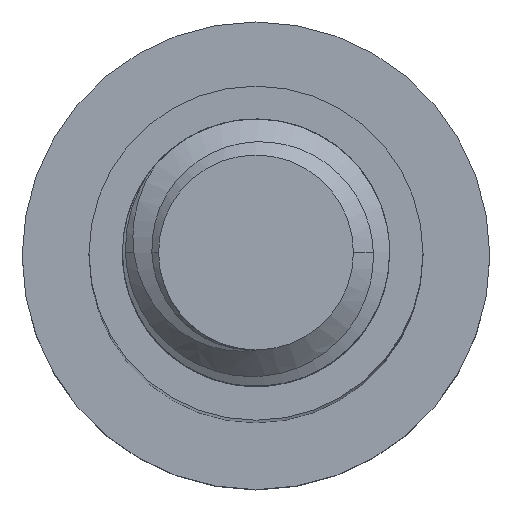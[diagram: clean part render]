
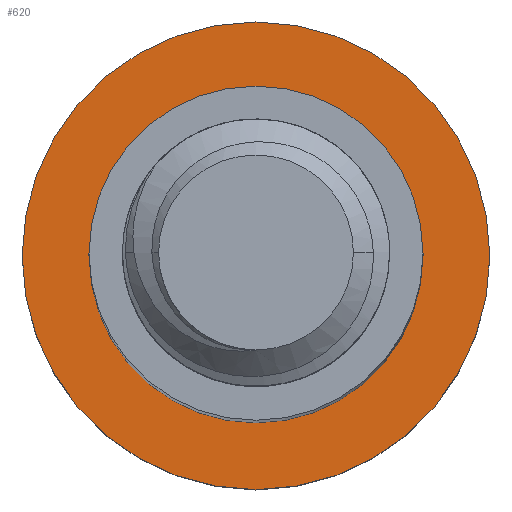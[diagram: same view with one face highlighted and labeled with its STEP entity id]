
A CAD part, top view. The second image highlights one B-rep face of the part: STEP entity #620.
In plain terms, the highlighted planar face has unit normal (0, 0, 1).
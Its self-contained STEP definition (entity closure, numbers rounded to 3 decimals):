
#134 = CARTESIAN_POINT ( 'NONE',  ( 0., 0., -45. ) ) ;
#141 = CARTESIAN_POINT ( 'NONE',  ( 7., 0., -45. ) ) ;
#224 = DIRECTION ( 'NONE',  ( -1., 0., 0. ) ) ;
#273 = EDGE_LOOP ( 'NONE', ( #2908, #792 ) ) ;
#315 = DIRECTION ( 'NONE',  ( 0., 0., -1. ) ) ;
#442 = PLANE ( 'NONE',  #3913 ) ;
#459 = AXIS2_PLACEMENT_3D ( 'NONE', #134, #3814, #2165 ) ;
#620 = ADVANCED_FACE ( 'NONE', ( #2100, #791 ), #442, .F. ) ;
#791 = FACE_OUTER_BOUND ( 'NONE', #273, .T. ) ;
#792 = ORIENTED_EDGE ( 'NONE', *, *, #1234, .F. ) ;
#917 = EDGE_CURVE ( 'NONE', #4020, #3199, #2801, .T. ) ;
#946 = DIRECTION ( 'NONE',  ( -1., 0., 0. ) ) ;
#959 = CIRCLE ( 'NONE', #2389, 7. ) ;
#1234 = EDGE_CURVE ( 'NONE', #2860, #1725, #2522, .T. ) ;
#1437 = DIRECTION ( 'NONE',  ( 0., 0., -1. ) ) ;
#1521 = CARTESIAN_POINT ( 'NONE',  ( 0., 0., -45. ) ) ;
#1725 = VERTEX_POINT ( 'NONE', #141 ) ;
#2093 = ORIENTED_EDGE ( 'NONE', *, *, #917, .T. ) ;
#2100 = FACE_BOUND ( 'NONE', #3582, .T. ) ;
#2147 = EDGE_CURVE ( 'NONE', #3199, #4020, #3775, .T. ) ;
#2165 = DIRECTION ( 'NONE',  ( -1., 0., 0. ) ) ;
#2285 = DIRECTION ( 'NONE',  ( -1., 0., 0. ) ) ;
#2389 = AXIS2_PLACEMENT_3D ( 'NONE', #1521, #2805, #224 ) ;
#2415 = CARTESIAN_POINT ( 'NONE',  ( 0., 0., -45. ) ) ;
#2446 = CARTESIAN_POINT ( 'NONE',  ( -5., 0., -45. ) ) ;
#2502 = CARTESIAN_POINT ( 'NONE',  ( 5., 0., -45. ) ) ;
#2522 = CIRCLE ( 'NONE', #459, 7. ) ;
#2577 = DIRECTION ( 'NONE',  ( 0., 0., -1. ) ) ;
#2724 = AXIS2_PLACEMENT_3D ( 'NONE', #3963, #315, #2285 ) ;
#2744 = DIRECTION ( 'NONE',  ( -1., 0., 0. ) ) ;
#2801 = CIRCLE ( 'NONE', #2724, 5. ) ;
#2805 = DIRECTION ( 'NONE',  ( 0., 0., -1. ) ) ;
#2860 = VERTEX_POINT ( 'NONE', #3369 ) ;
#2908 = ORIENTED_EDGE ( 'NONE', *, *, #3947, .F. ) ;
#3199 = VERTEX_POINT ( 'NONE', #2446 ) ;
#3369 = CARTESIAN_POINT ( 'NONE',  ( -7., 0., -45. ) ) ;
#3575 = CARTESIAN_POINT ( 'NONE',  ( 0., 0., -45. ) ) ;
#3582 = EDGE_LOOP ( 'NONE', ( #3816, #2093 ) ) ;
#3775 = CIRCLE ( 'NONE', #4188, 5. ) ;
#3814 = DIRECTION ( 'NONE',  ( 0., 0., -1. ) ) ;
#3816 = ORIENTED_EDGE ( 'NONE', *, *, #2147, .T. ) ;
#3913 = AXIS2_PLACEMENT_3D ( 'NONE', #2415, #1437, #2744 ) ;
#3947 = EDGE_CURVE ( 'NONE', #1725, #2860, #959, .T. ) ;
#3963 = CARTESIAN_POINT ( 'NONE',  ( 0., 0., -45. ) ) ;
#4020 = VERTEX_POINT ( 'NONE', #2502 ) ;
#4188 = AXIS2_PLACEMENT_3D ( 'NONE', #3575, #2577, #946 ) ;
